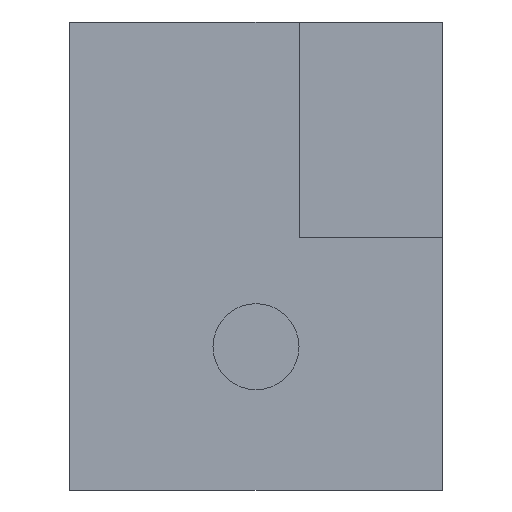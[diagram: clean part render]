
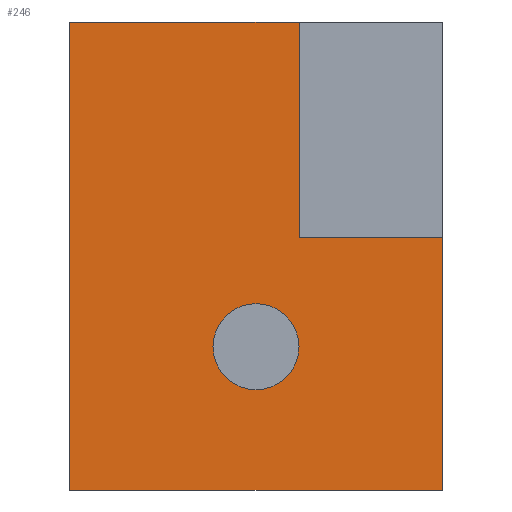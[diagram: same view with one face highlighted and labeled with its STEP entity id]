
A CAD part, left-side view. The second image highlights one B-rep face of the part: STEP entity #246.
In plain terms, the highlighted planar face has unit normal (-1, 0, 0).
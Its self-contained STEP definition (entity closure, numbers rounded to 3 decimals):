
#144=AXIS2_PLACEMENT_3D('Circle Axis2P3D',#142,#143,$) ;
#170=AXIS2_PLACEMENT_3D('Circle Axis2P3D',#168,#169,$) ;
#198=AXIS2_PLACEMENT_3D('Plane Axis2P3D',#195,#196,#197) ;
#42=CARTESIAN_POINT('Vertex',(-20.15,6.25,19.3)) ;
#47=CARTESIAN_POINT('Line Origine',(-20.15,6.25,11.8)) ;
#51=CARTESIAN_POINT('Vertex',(-20.15,6.25,4.3)) ;
#78=CARTESIAN_POINT('Line Origine',(-20.15,1.25,4.3)) ;
#82=CARTESIAN_POINT('Vertex',(-20.15,-3.75,4.3)) ;
#137=CARTESIAN_POINT('Vertex',(-20.15,6.25,-3.35)) ;
#142=CARTESIAN_POINT('Axis2P3D Location',(-20.15,9.25,-3.35)) ;
#146=CARTESIAN_POINT('Vertex',(-20.15,12.25,-3.35)) ;
#168=CARTESIAN_POINT('Axis2P3D Location',(-20.15,9.25,-3.35)) ;
#195=CARTESIAN_POINT('Axis2P3D Location',(-20.15,-37.,-30.7)) ;
#200=CARTESIAN_POINT('Line Origine',(-20.15,9.25,19.3)) ;
#204=CARTESIAN_POINT('Vertex',(-20.15,15.25,19.3)) ;
#207=CARTESIAN_POINT('Line Origine',(-20.15,9.25,19.3)) ;
#211=CARTESIAN_POINT('Vertex',(-20.15,22.25,19.3)) ;
#214=CARTESIAN_POINT('Line Origine',(-20.15,22.25,5.05)) ;
#218=CARTESIAN_POINT('Vertex',(-20.15,22.25,-13.35)) ;
#221=CARTESIAN_POINT('Line Origine',(-20.15,9.25,-13.35)) ;
#225=CARTESIAN_POINT('Vertex',(-20.15,-3.75,-13.35)) ;
#228=CARTESIAN_POINT('Line Origine',(-20.15,-3.75,5.05)) ;
#48=DIRECTION('Vector Direction',(0.,0.,-1.)) ;
#79=DIRECTION('Vector Direction',(0.,1.,0.)) ;
#143=DIRECTION('Axis2P3D Direction',(-1.,0.,0.)) ;
#169=DIRECTION('Axis2P3D Direction',(-1.,0.,0.)) ;
#196=DIRECTION('Axis2P3D Direction',(1.,0.,0.)) ;
#197=DIRECTION('Axis2P3D XDirection',(0.,0.,-1.)) ;
#201=DIRECTION('Vector Direction',(0.,1.,0.)) ;
#208=DIRECTION('Vector Direction',(0.,1.,0.)) ;
#215=DIRECTION('Vector Direction',(0.,0.,-1.)) ;
#222=DIRECTION('Vector Direction',(0.,1.,0.)) ;
#229=DIRECTION('Vector Direction',(0.,0.,-1.)) ;
#49=VECTOR('Line Direction',#48,1.) ;
#80=VECTOR('Line Direction',#79,1.) ;
#202=VECTOR('Line Direction',#201,1.) ;
#209=VECTOR('Line Direction',#208,1.) ;
#216=VECTOR('Line Direction',#215,1.) ;
#223=VECTOR('Line Direction',#222,1.) ;
#230=VECTOR('Line Direction',#229,1.) ;
#234=ORIENTED_EDGE('',*,*,#84,.F.) ;
#235=ORIENTED_EDGE('',*,*,#53,.F.) ;
#236=ORIENTED_EDGE('',*,*,#206,.F.) ;
#237=ORIENTED_EDGE('',*,*,#213,.F.) ;
#238=ORIENTED_EDGE('',*,*,#220,.F.) ;
#239=ORIENTED_EDGE('',*,*,#227,.F.) ;
#240=ORIENTED_EDGE('',*,*,#232,.F.) ;
#243=ORIENTED_EDGE('',*,*,#148,.F.) ;
#244=ORIENTED_EDGE('',*,*,#172,.F.) ;
#245=FACE_BOUND('',#242,.T.) ;
#246=ADVANCED_FACE('MANIFOLD_SOLID_BREP #21745',(#241,#245),#199,.F.) ;
#145=CIRCLE('generated circle',#144,3.) ;
#171=CIRCLE('generated circle',#170,3.) ;
#53=EDGE_CURVE('',#43,#52,#50,.T.) ;
#84=EDGE_CURVE('',#52,#83,#81,.F.) ;
#148=EDGE_CURVE('',#138,#147,#145,.T.) ;
#172=EDGE_CURVE('',#147,#138,#171,.T.) ;
#206=EDGE_CURVE('',#205,#43,#203,.F.) ;
#213=EDGE_CURVE('',#212,#205,#210,.F.) ;
#220=EDGE_CURVE('',#219,#212,#217,.F.) ;
#227=EDGE_CURVE('',#226,#219,#224,.T.) ;
#232=EDGE_CURVE('',#83,#226,#231,.T.) ;
#233=EDGE_LOOP('',(#234,#235,#236,#237,#238,#239,#240)) ;
#242=EDGE_LOOP('',(#243,#244)) ;
#241=FACE_OUTER_BOUND('',#233,.T.) ;
#50=LINE('Line',#47,#49) ;
#81=LINE('Line',#78,#80) ;
#203=LINE('Line',#200,#202) ;
#210=LINE('Line',#207,#209) ;
#217=LINE('Line',#214,#216) ;
#224=LINE('Line',#221,#223) ;
#231=LINE('Line',#228,#230) ;
#199=PLANE('Plane',#198) ;
#43=VERTEX_POINT('',#42) ;
#52=VERTEX_POINT('',#51) ;
#83=VERTEX_POINT('',#82) ;
#138=VERTEX_POINT('',#137) ;
#147=VERTEX_POINT('',#146) ;
#205=VERTEX_POINT('',#204) ;
#212=VERTEX_POINT('',#211) ;
#219=VERTEX_POINT('',#218) ;
#226=VERTEX_POINT('',#225) ;
